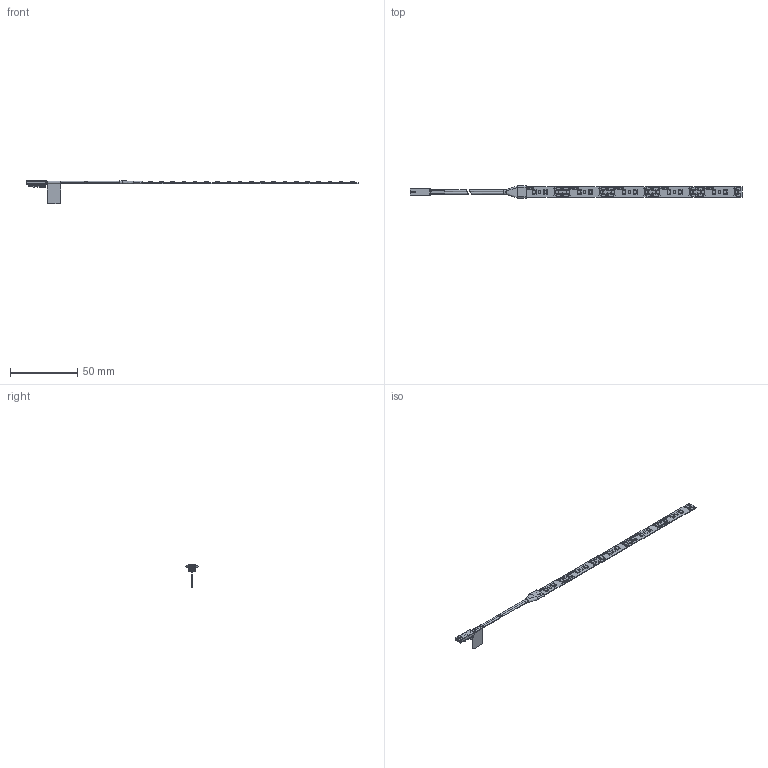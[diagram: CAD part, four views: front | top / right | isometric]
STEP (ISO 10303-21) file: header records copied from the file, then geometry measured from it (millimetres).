
FILE_DESCRIPTION (( 'STEP AP203' ), '1' );
FILE_NAME ('VersaInside_24.STEP', '2024-11-27T12:35:22', ( '' ), ( '' ), 'SwSTEP 2.0', 'SolidWorks 2023', '' );
FILE_SCHEMA (( 'CONFIG_CONTROL_DESIGN' ));
Length unit declared in the file: millimetre
Products named in the file (5): Aufkleber_Versa_120; 5604401; VersaInside_24; 5604401_Schrumpf_li; LED_Stecker_Versa_pdm_mit Schnitt_70mm
Assembly tree (7 placements, depth 2):
  VersaInside_24
    5604401_Schrumpf_li
    LED_Stecker_Versa_pdm_mit Schnitt_70mm
    5604401  x4
    Aufkleber_Versa_120
Bounding box: 246.35 x 9 x 17.6 mm (x, y, z)
Volume: 1429.4 mm3; surface area: 4919.7 mm2
Topology: 18 solids, 18 shells, 1320 faces, 3385 edges, 2169 vertices
Faces by surface type: plane 762, cylinder 324, bspline 167, torus 36, sphere 31
Entity records: 30375 total; most frequent: CARTESIAN_POINT 13385, ORIENTED_EDGE 3468, DIRECTION 3271, EDGE_CURVE 1734, VERTEX_POINT 1095, LINE 1093, VECTOR 1093, AXIS2_PLACEMENT_3D 1089
